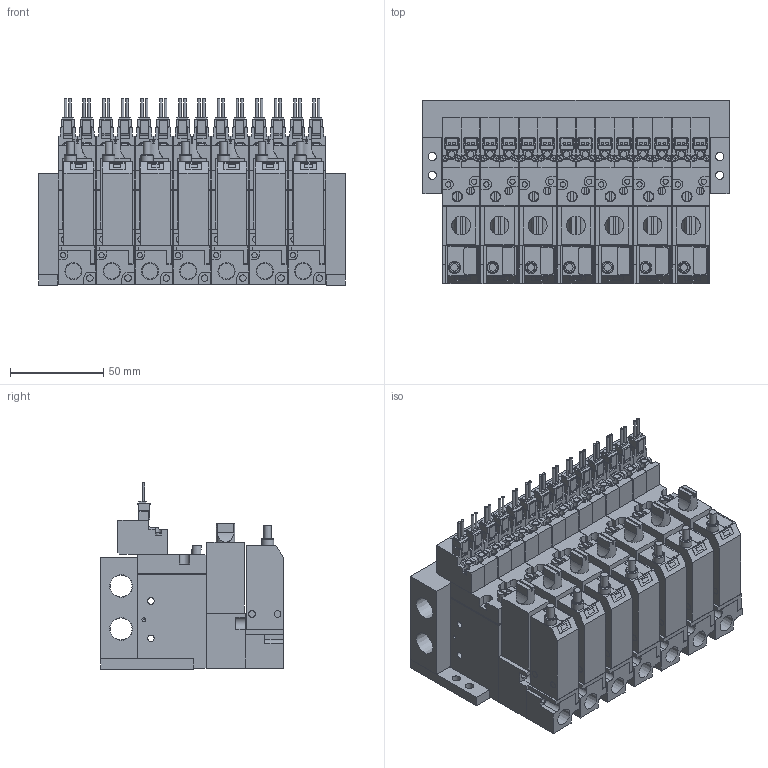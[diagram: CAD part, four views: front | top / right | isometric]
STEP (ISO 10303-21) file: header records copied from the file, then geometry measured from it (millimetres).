
FILE_DESCRIPTION(('STEP AP203'),'1');
FILE_NAME('BMPV32M2NAB25BL707.stp','2025-06-17T00:18:09',(' '),(' '),'Spatial InterOp 3D',' ',' ');
FILE_SCHEMA(('CONFIG_CONTROL_DESIGN'));
Length unit declared in the file: millimetre
Products named in the file (88): BMPV32M2NAB25BL707; Filter Assy; __; _____; MB BRACKET; BMPV32 MB07; Pressure sensor ABSL; ___ ___2; ___-2(Rc); ___; upper plate-A; ______; ____; VACUUM VALVE FUNCTION MPV42-A
Assembly tree (87 placements, depth 2):
  BMPV32M2NAB25BL707
    Filter Assy
    __
    _____
    Filter Assy
    __
    _____
    Filter Assy
    __
    _____
    Filter Assy
    __
    _____
    Filter Assy
    __
    _____
    Filter Assy
    __
    _____
    MB BRACKET
    MB BRACKET
    BMPV32 MB07
    Filter Assy
    __
    _____
    Pressure sensor ABSL
    ___ ___2
    ___-2(Rc)
    Pressure sensor ABSL
    ___ ___2
    ___-2(Rc)
    Pressure sensor ABSL
    ___ ___2
    ___-2(Rc)
    Pressure sensor ABSL
    ___ ___2
    ___-2(Rc)
    Pressure sensor ABSL
    ___ ___2
    ___-2(Rc)
    Pressure sensor ABSL
    ___ ___2
    ___-2(Rc)
    Pressure sensor ABSL
    ___ ___2
    ___-2(Rc)
    ___
    upper plate-A
    ______
    ____
    VACUUM VALVE FUNCTION MPV42-A
    VACUUM VALVE FUNCTION MPV42-A
    ___
    upper plate-A
    ______
    ____
    VACUUM VALVE FUNCTION MPV42-A
    VACUUM VALVE FUNCTION MPV42-A
    ___
    upper plate-A
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Bounding box: 164 x 98 x 99.75 mm (x, y, z)
Volume: 830586.9 mm3; surface area: 273591.8 mm2
Topology: 87 solids, 87 shells, 2623 faces, 6820 edges, 4537 vertices
Faces by surface type: plane 2107, cylinder 459, cone 50, torus 7
Full cylindrical faces by diameter (mm): 1.4 x28, 1.8 x14, 2 x14, 2.5 x18, 2.8 x28, 3 x28, 3.5 x88, 4 x14, 4.2 x7, 4.5 x4, 5 x7, 5.5 x7, 6.5 x13, 8.522 x7, 11.776 x2
Entity records: 82200 total; most frequent: CARTESIAN_POINT 14022, DIRECTION 12922, ORIENTED_EDGE 12694, EDGE_CURVE 6347, LINE 5138, VECTOR 5138, VERTEX_POINT 4446, AXIS2_PLACEMENT_3D 3892
